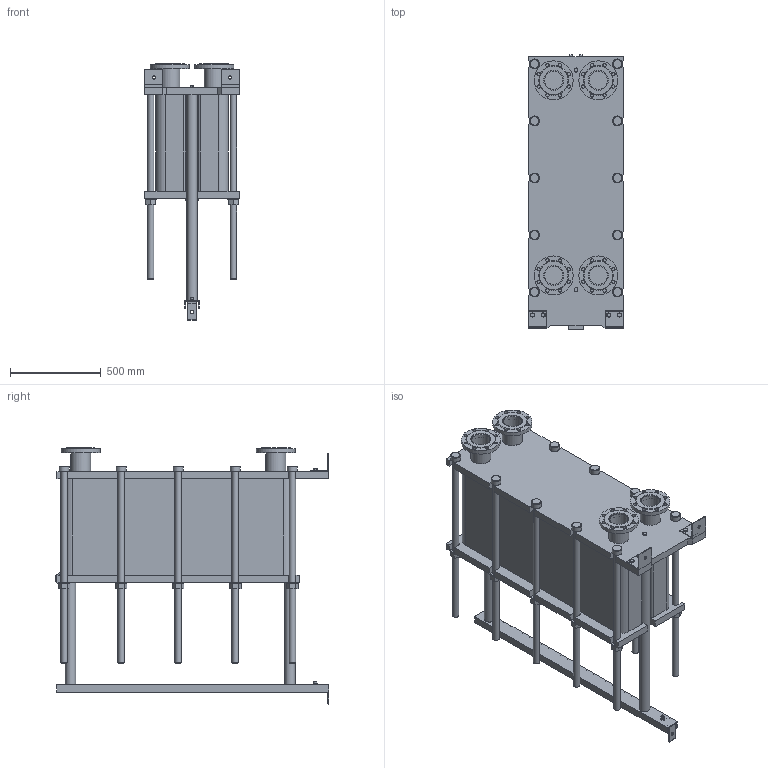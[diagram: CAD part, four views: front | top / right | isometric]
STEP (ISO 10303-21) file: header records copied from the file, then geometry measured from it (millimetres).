
FILE_DESCRIPTION(/* description */ (''),/* implementation_level */ '2;1');
FILE_NAME(/* name */ 'C:\Users\zhuro\Desktop\ENCO\TO\ЭН-04\ЭН-0,5-04-154-1.stp',/* time_stamp */ '2022-06-06T10:59:06+03:00',/* author */ ('zhuro'),/* organization */ (''),/* preprocessor_version */ 'ST-DEVELOPER v18.1',/* originating_system */ 'Autodesk Inventor 2022',/* authorisation */ '');
FILE_SCHEMA (('AUTOMOTIVE_DESIGN { 1 0 10303 214 3 1 1 }'));
Length unit declared in the file: millimetre
Products named in the file (1): ЭН-0,5-04-154-1
Bounding box: 520 x 1510 x 1412 mm (x, y, z)
Volume: 339633153.8 mm3; surface area: 9542727.1 mm2
Topology: 45 solids, 45 shells, 668 faces, 1611 edges, 1048 vertices
Faces by surface type: plane 457, cylinder 166, cone 39, torus 6
Full cylindrical faces by diameter (mm): 8 x4, 10 x2, 16 x8, 18 x35, 36 x25, 40 x2, 42 x1, 45 x4, 54 x10, 57 x2, 60 x10, 68 x2, 100 x4, 110 x8, 215 x4
Entity records: 23607 total; most frequent: CARTESIAN_POINT 7348, DIRECTION 3371, ORIENTED_EDGE 3142, EDGE_CURVE 1571, AXIS2_PLACEMENT_3D 1199, VERTEX_POINT 1044, LINE 973, VECTOR 973
